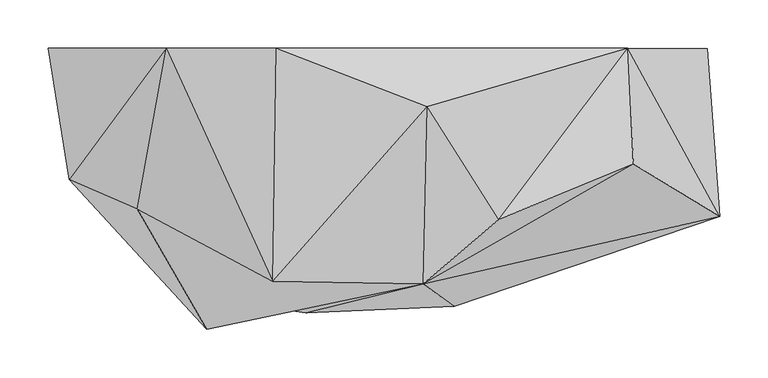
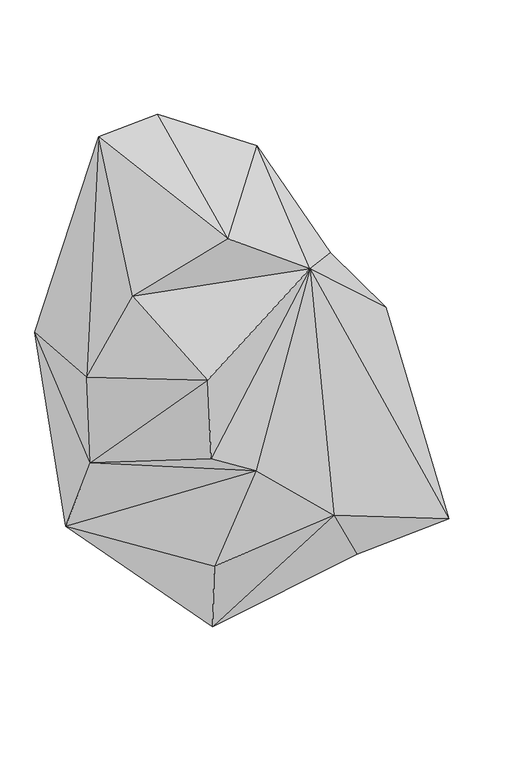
"""IFC4 building model written with IfcOpenShell, lengths in millimetres: geographic element geometry, Enscape AssetDefinition - Creeper Plant 028 Ivy : Enscape AssetDefinition - Creeper Plant 028 Ivy 2."""

from ifc_helpers import new_model, si_unit, origin, place, context, project, spatial, triangles, source, transform, mapped, element, save


def geographic_element_a5b1a6e7(model_context):
    return source(origin(), model_context, "Body", "Tessellation", [
        triangles([(248.4711526, -22.8036658, 37.3749625), (-228.6296494, -22.8037475, 494.2810578), (-115.1650816, -22.8037475, 499.9999675), (41.1462076, -82.9267333, 418.0891969), (-118.7884252, -263.7582828, 394.944425), (-350.6453121, -22.8036862, 140.1322078), (-258.6860451, -188.9504398, 281.8962381), (-329.2952345, -158.7618392, 124.0802261), (114.6546659, -199.7034535, 245.3400393), (253.9176225, -142.5615471, 51.688928), (343.1957305, -196.7480198, -375.2421029), (36.6448699, -266.334143, 280.6642276), (68.722018, -289.8141415, -215.7610308), (330.1945982, -22.8035818, -448.9942509), (189.2123969, -158.444453, -415.8602268), (-75.7072021, -137.821484, -482.8430569), (-84.6365127, -296.4364117, -67.7204077), (-148.0509831, -268.4572147, -255.5264633), (-63.640088, -22.8035818, -495.6730877), (-324.4574484, -161.8707519, -48.729175), (-311.7493941, -57.9021434, -244.6083979), (-164.0864778, -284.7392695, -22.8064227), (-186.8850862, -313.4436221, 162.1493504)], [[8, 23, 7], [23, 12, 7], [12, 23, 22], [23, 8, 20], [6, 20, 8], [23, 20, 22], [17, 22, 20], [12, 22, 17], [17, 20, 21], [6, 21, 20], [18, 17, 21], [6, 1, 21], [1, 19, 21], [1, 14, 19], [16, 18, 21], [19, 16, 21], [16, 13, 18], [13, 12, 17], [17, 18, 13], [19, 15, 16], [14, 15, 19], [15, 13, 16], [11, 14, 1], [15, 14, 11], [11, 12, 13], [15, 11, 13], [11, 1, 10], [10, 12, 11], [9, 12, 10], [1, 9, 10], [9, 1, 4], [12, 9, 4], [7, 12, 5], [4, 5, 12], [8, 2, 6], [5, 2, 7], [6, 2, 1], [2, 8, 7], [1, 3, 4], [4, 3, 5], [3, 2, 5], [3, 1, 2]]),
    ])


if __name__ == "__main__":
    model = new_model("IFC4")
    model_context = context("Model", 3, world=origin())
    ifc_project = project(units=[si_unit("LENGTHUNIT", "METRE", prefix="MILLI")], contexts=[model_context])
    site = spatial("IfcSite", under=ifc_project)
    building = spatial("IfcBuilding", under=site)
    placement = place(None, origin())
    geographic_element_shape = geographic_element_a5b1a6e7(model_context)
    element("IfcGeographicElement", 1, ObjectType="Enscape AssetDefinition - Creeper Plant 028 Ivy : Enscape AssetDefinition - Creeper Plant 028 Ivy 2", at=placement, inside=building, context=model_context, shape_type="MappedRepresentation", body=[
        mapped(geographic_element_shape, transform((0.0, 0.0, 0.0), x_axis=(1.0, 0.0, 0.0), y_axis=(0.0, 1.0, 0.0), z_axis=(0.0, 0.0, 1.0))),
    ])
    save(model, "model.ifc")
